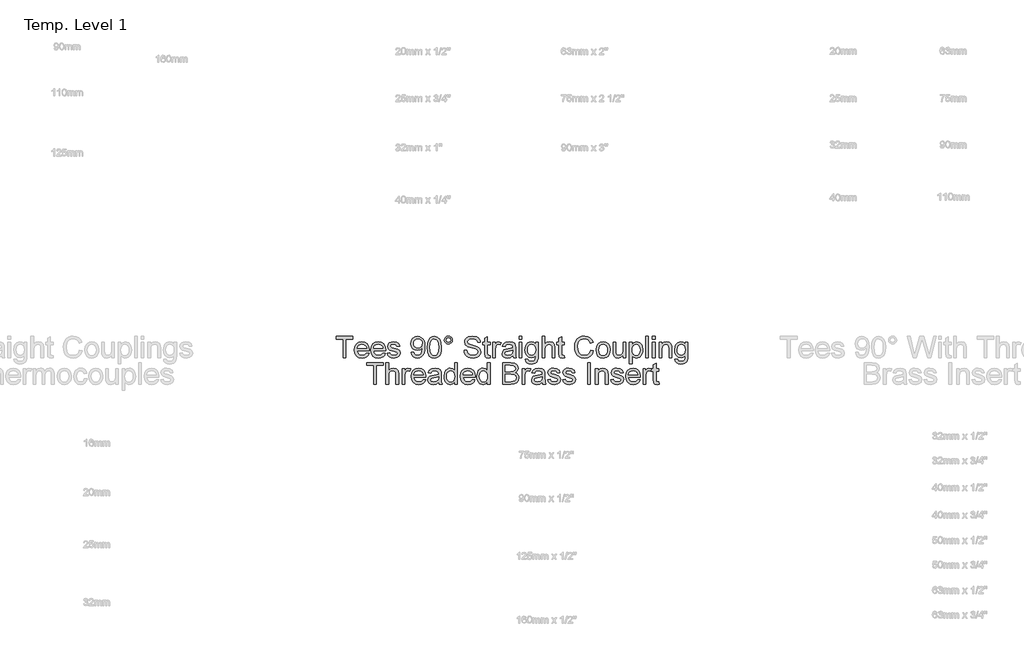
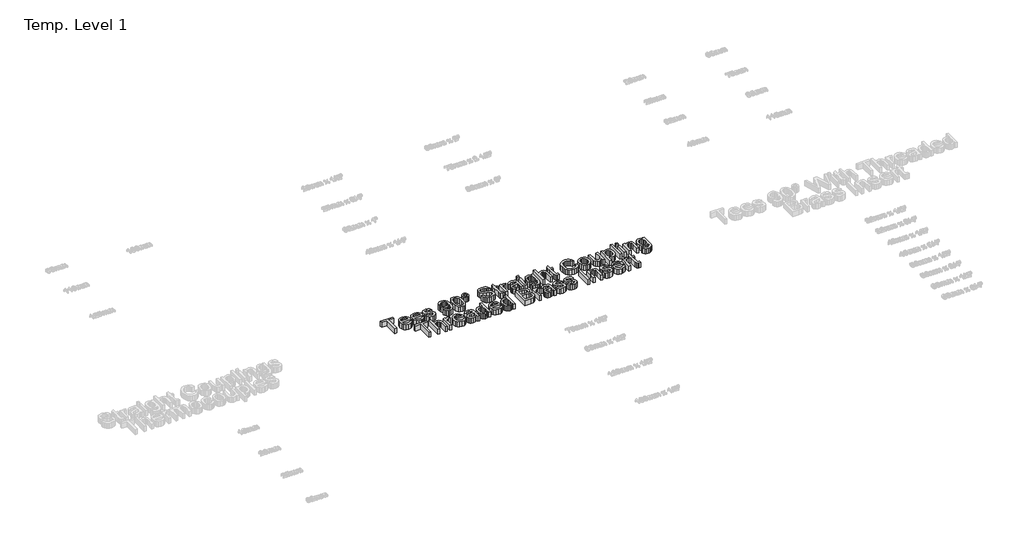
# One storey, part 5 of 62: 1 proxy.
"""IFC4 building model written with IfcOpenShell, lengths in millimetres."""

from ifc_helpers import new_model, si_unit, origin, origin_with_axes, place, context, project, spatial, polyline, outline, extrude, element, save

model = new_model("IFC4")

# Units and contexts
model_context = context("Model", 3, world=origin())
ifc_project = project(units=[si_unit("LENGTHUNIT", "METRE", prefix="MILLI")], contexts=[model_context])

# Site, building, storey
site = spatial("IfcSite", under=ifc_project)
building = spatial("IfcBuilding", under=site)
storey = spatial("IfcBuildingStorey", under=building, Name="Temp. Level 1", Elevation=0.0)

# Proxy
placement = place(None, origin())
element("IfcBuildingElementProxy", 1, Name="150mm Arial", ObjectType="150mm Arial", at=placement, inside=storey, context=model_context, shape_type="SweptSolid", body=[
    extrude(outline(polyline([(14288.0407135, -9979.0446709), (14288.0407135, -9849.8139016), (14239.579175, -9849.8139016), (14239.579175, -9831.3523632), (14354.9637904, -9831.3523632), (14354.9637904, -9849.8139016), (14306.5022519, -9849.8139016), (14306.5022519, -9979.0446709), (14288.0407135, -9979.0446709)])), origin_with_axes(), (0.0, 0.0, 1.0), 50.0),
    extrude(outline(polyline([(14449.3628288, -9946.7369786), (14467.4637904, -9949.0446709), (14460.9418553, -9962.683493), (14450.5347038, -9972.8788055), (14436.4767111, -9979.2339737), (14419.0022519, -9981.3523632), (14397.3405933, -9977.6970146), (14380.672925, -9966.7309689), (14370.0449202, -9949.1663656), (14366.5022519, -9925.7153439), (14370.0809779, -9901.4755603), (14380.8171558, -9883.3475555), (14397.2594635, -9872.0434689), (14417.9565788, -9868.2754401), (14438.009163, -9872.0344545), (14454.0323, -9883.3114978), (14464.5386101, -9901.4034449), (14468.0407135, -9925.6071709), (14467.9325404, -9930.5831324), (14384.9637904, -9930.5831324), (14388.1594034, -9944.402243), (14395.5827808, -9954.5614978), (14406.2964226, -9960.808493), (14419.3628288, -9962.8908247), (14437.4637904, -9959.0326516), (14449.3628288, -9946.7369786)]), holes=[polyline([(14384.9637904, -9912.1215939), (14449.579175, -9912.1215939), (14447.0821798, -9902.3679882), (14442.1873481, -9895.3908247), (14431.4241269, -9888.9004401), (14417.8844635, -9886.7369786), (14405.4400524, -9888.4632406), (14395.1500885, -9893.6420266), (14387.9971438, -9901.7144425), (14384.9637904, -9912.1215939)])]), origin_with_axes(), (0.0, 0.0, 1.0), 50.0),
    extrude(outline(polyline([(14562.4397519, -9946.7369786), (14580.5407135, -9949.0446709), (14574.0187784, -9962.683493), (14563.6116269, -9972.8788055), (14549.5536341, -9979.2339737), (14532.079175, -9981.3523632), (14510.4175163, -9977.6970146), (14493.7498481, -9966.7309689), (14483.1218433, -9949.1663656), (14479.579175, -9925.7153439), (14483.157901, -9901.4755603), (14493.8940788, -9883.3475555), (14510.3363865, -9872.0434689), (14531.0335019, -9868.2754401), (14551.0860861, -9872.0344545), (14567.1092231, -9883.3114978), (14577.6155332, -9901.4034449), (14581.1176365, -9925.6071709), (14581.0094635, -9930.5831324), (14498.0407135, -9930.5831324), (14501.2363264, -9944.402243), (14508.6597038, -9954.5614978), (14519.3733457, -9960.808493), (14532.4397519, -9962.8908247), (14550.5407135, -9959.0326516), (14562.4397519, -9946.7369786)]), holes=[polyline([(14498.0407135, -9912.1215939), (14562.6560981, -9912.1215939), (14560.1591029, -9902.3679882), (14555.2642712, -9895.3908247), (14544.50105, -9888.9004401), (14530.9613865, -9886.7369786), (14518.5169755, -9888.4632406), (14508.2270115, -9893.6420266), (14501.0740668, -9901.7144425), (14498.0407135, -9912.1215939)])]), origin_with_axes(), (0.0, 0.0, 1.0), 50.0),
    extrude(outline(polyline([(14592.6560981, -9946.7369786), (14611.1176365, -9944.4292862), (14614.0292952, -9952.3259209), (14619.6633096, -9958.1312093), (14639.2426365, -9962.8908247), (14658.0647519, -9958.5278439), (14664.1945596, -9948.2874593), (14658.0286942, -9939.9941901), (14639.0262904, -9934.729767), (14611.2258096, -9925.6973151), (14599.0923962, -9915.1504401), (14594.9637904, -9900.2586132), (14598.2810981, -9886.5026036), (14607.3315788, -9875.9917862), (14619.0683577, -9870.5290459), (14634.9517712, -9868.2754401), (14657.4157135, -9871.8992382), (14671.6945596, -9881.7069305), (14678.0407135, -9898.2754401), (14659.579175, -9900.5831324), (14652.6380692, -9890.3968343), (14636.3940788, -9886.7369786), (14618.7258096, -9890.2345747), (14613.4253288, -9898.3836132), (14615.6248481, -9903.7562093), (14622.5118673, -9907.8307286), (14638.4133096, -9911.761017), (14665.5106654, -9920.4509209), (14678.0948, -9930.2946709), (14682.6560981, -9946.3403439), (14677.3015308, -9964.0086132), (14661.8508096, -9976.8271228), (14638.9902327, -9981.3523632), (14620.375449, -9979.1708728), (14606.7907135, -9972.6264016), (14597.7222038, -9961.7910651), (14592.6560981, -9946.7369786)])), origin_with_axes(), (0.0, 0.0, 1.0), 50.0),
    extrude(outline(polyline([(14758.8099442, -9942.1215939), (14777.2714827, -9939.8139016), (14780.4265308, -9950.2931685), (14785.5647519, -9957.4280843), (14801.2859058, -9962.8908247), (14816.2318192, -9959.3751997), (14826.3640308, -9949.9821709), (14832.4036942, -9933.9364978), (14835.0719635, -9912.5182286), (14834.9637904, -9908.9124593), (14820.1981654, -9922.9028439), (14799.9517712, -9928.2754401), (14783.1173361, -9924.9941901), (14769.1044154, -9915.1504401), (14759.6527928, -9899.9431084), (14756.5022519, -9880.5711132), (14759.806038, -9860.5590939), (14769.7173962, -9844.8739978), (14784.6047159, -9834.7327718), (14802.8363865, -9831.3523632), (14816.6059178, -9833.2814497), (14829.1404731, -9839.0687093), (14839.6242471, -9848.4256805), (14847.2414346, -9861.0639016), (14851.8793553, -9878.5338536), (14853.4253288, -9902.386017), (14851.8838625, -9927.675981), (14847.2594635, -9947.2237574), (14839.5926966, -9961.9127598), (14828.9241269, -9972.6264016), (14815.7134899, -9979.1708728), (14800.4205212, -9981.3523632), (14784.6362663, -9978.7787454), (14772.0431173, -9971.057892), (14763.236026, -9958.6765819), (14758.8099442, -9942.1215939)]), holes=[polyline([(14834.9637904, -9880.1384209), (14832.9716029, -9867.6264016), (14826.9950404, -9857.9989978), (14817.719199, -9851.8601757), (14805.829175, -9849.8139016), (14793.4974442, -9852.0179281), (14783.6176365, -9858.6300074), (14777.1272519, -9868.7486973), (14774.9637904, -9881.4725555), (14777.0100644, -9892.8803079), (14783.1488865, -9901.9352959), (14792.7853048, -9907.8442502), (14805.3243673, -9909.8139016), (14817.1197399, -9907.8442502), (14826.6164346, -9901.9352959), (14832.8769514, -9892.5467742), (14834.9637904, -9880.1384209)])]), origin_with_axes(), (0.0, 0.0, 1.0), 50.0),
    extrude(outline(polyline([(14869.579175, -9906.3884209), (14870.9358457, -9882.7480963), (14875.0058577, -9863.8944305), (14881.7486462, -9849.5389617), (14891.1236462, -9839.3932286), (14903.1984659, -9833.3625795), (14918.0407135, -9831.3523632), (14939.6032135, -9836.1119786), (14954.4950404, -9849.8319305), (14963.1488865, -9871.682892), (14966.5022519, -9906.3884209), (14965.1591029, -9929.893529), (14961.1296558, -9948.7021228), (14954.4274322, -9963.0711132), (14945.0659538, -9973.2574112), (14932.9640909, -9979.3286252), (14918.0407135, -9981.3523632), (14898.8580212, -9977.8367382), (14884.2907135, -9967.2898632), (14873.2570596, -9942.3108968), (14869.579175, -9906.3884209)]), holes=[polyline([(14888.0407135, -9906.3523632), (14890.204175, -9935.3923271), (14896.6945596, -9952.1997189), (14906.3580212, -9960.2180483), (14918.0407135, -9962.8908247), (14929.7234058, -9960.2090338), (14939.3868673, -9952.1636612), (14945.8772519, -9935.347255), (14948.0407135, -9906.3523632), (14945.9493673, -9877.9659449), (14939.6753288, -9861.0278439), (14930.0298962, -9852.6173872), (14917.8243673, -9849.8139016), (14906.2678769, -9852.2838536), (14896.9830212, -9859.6937093), (14890.2762904, -9877.6864978), (14888.0407135, -9906.3523632)])]), origin_with_axes(), (0.0, 0.0, 1.0), 50.0),
    extrude(outline(polyline([(14987.2714827, -9856.7009209), (14989.3042351, -9846.0548872), (14995.4024923, -9837.1215939), (15004.3493072, -9831.0639016), (15014.9277327, -9829.0446709), (15025.6278529, -9831.0639016), (15034.579175, -9837.1215939), (15040.6368673, -9846.0548872), (15042.6560981, -9856.7009209), (15040.6233457, -9867.3334329), (15034.5250885, -9876.2982766), (15025.5602447, -9882.3965338), (15014.9277327, -9884.4292862), (15004.3493072, -9882.4100555), (14995.4024923, -9876.3523632), (14989.3042351, -9867.4010411), (14987.2714827, -9856.7009209)]), holes=[polyline([(14998.8099442, -9856.7369786), (15003.5515308, -9868.167267), (15014.9998481, -9872.8908247), (15026.37605, -9868.167267), (15031.1176365, -9856.7369786), (15026.37605, -9845.3066901), (15014.9998481, -9840.5831324), (15003.5515308, -9845.3066901), (14998.8099442, -9856.7369786)])]), origin_with_axes(), (0.0, 0.0, 1.0), 50.0),
    extrude(outline(polyline([(15123.4253288, -9928.2754401), (15141.8868673, -9928.2754401), (15147.8363865, -9946.7550074), (15162.3676365, -9958.4376997), (15184.5070596, -9962.8908247), (15203.797925, -9959.5194305), (15216.2558577, -9950.2526036), (15220.3484058, -9937.8667862), (15217.2835019, -9926.3463536), (15204.735425, -9917.9629401), (15177.8544154, -9910.9136612), (15148.9181173, -9901.8090939), (15133.2149923, -9888.0711132), (15128.0407135, -9869.7177478), (15129.6407736, -9858.9049473), (15134.4409538, -9848.8223151), (15142.3150524, -9840.276642), (15153.1368673, -9834.0747189), (15180.5046558, -9829.0446709), (15209.7113865, -9834.3090939), (15220.9073, -9840.808493), (15229.1825404, -9849.7778439), (15234.4199202, -9860.6582526), (15236.5022519, -9872.8908247), (15218.0407135, -9872.8908247), (15214.6512904, -9861.8751997), (15207.5839827, -9853.9244786), (15196.5413144, -9849.1107766), (15181.2258096, -9847.5062093), (15165.5497279, -9849.0927478), (15154.7955212, -9853.8523632), (15148.5755692, -9860.8565699), (15146.5022519, -9869.1768824), (15147.9716029, -9876.2712334), (15152.3796558, -9881.9773632), (15182.5238865, -9892.2898632), (15215.1921558, -9901.5566901), (15225.7164947, -9908.2544064), (15233.0587423, -9916.5206324), (15238.8099442, -9937.3980362), (15237.1557976, -9948.7787454), (15232.1933577, -9959.4833728), (15224.125449, -9968.6961132), (15213.1548962, -9975.6011612), (15185.2282135, -9981.3523632), (15167.1407736, -9979.8018824), (15152.2534538, -9975.1504401), (15140.3949803, -9967.3800074), (15131.3940788, -9956.4725555), (15125.6158337, -9943.1852959), (15123.4253288, -9928.2754401)])), origin_with_axes(), (0.0, 0.0, 1.0), 50.0),
    extrude(outline(polyline([(15303.4253288, -9963.6480362), (15305.7330212, -9979.5855362), (15291.922925, -9981.3523632), (15276.454175, -9978.2874593), (15268.7378288, -9970.2465939), (15266.5022519, -9949.2970747), (15266.5022519, -9889.0446709), (15252.6560981, -9889.0446709), (15252.6560981, -9870.5831324), (15266.5022519, -9870.5831324), (15266.5022519, -9844.2249593), (15284.9637904, -9833.3715939), (15284.9637904, -9870.5831324), (15303.4253288, -9870.5831324), (15303.4253288, -9889.0446709), (15284.9637904, -9889.0446709), (15284.9637904, -9948.7562093), (15285.9373481, -9958.2754401), (15289.0923962, -9961.6468343), (15295.3844635, -9962.8908247), (15303.4253288, -9963.6480362)])), origin_with_axes(), (0.0, 0.0, 1.0), 50.0),
    extrude(outline(polyline([(15321.8868673, -9979.0446709), (15321.8868673, -9870.5831324), (15338.0407135, -9870.5831324), (15338.0407135, -9886.6288055), (15349.5070596, -9871.8451516), (15361.0455212, -9868.2754401), (15379.579175, -9873.9725555), (15373.4133096, -9890.5230362), (15360.4325404, -9886.7369786), (15349.9938385, -9890.3788055), (15343.3411942, -9900.4749593), (15340.3484058, -9922.0374593), (15340.3484058, -9979.0446709), (15321.8868673, -9979.0446709)])), origin_with_axes(), (0.0, 0.0, 1.0), 50.0),
    extrude(outline(polyline([(15460.3484058, -9965.198517), (15442.4457615, -9977.7105362), (15422.6681173, -9981.3523632), (15407.2399322, -9979.1618584), (15395.8592231, -9972.5903439), (15388.8414947, -9962.6113776), (15386.5022519, -9950.198517), (15390.0359058, -9935.5951516), (15399.3207615, -9924.9941901), (15412.2474442, -9918.9364978), (15428.2210019, -9916.1600555), (15460.2402327, -9909.8139016), (15460.3484058, -9905.7033247), (15459.0773721, -9897.464142), (15455.2642712, -9892.073517), (15446.7366269, -9888.0711132), (15434.8556173, -9886.7369786), (15416.1777327, -9890.2886612), (15407.2714827, -9902.8908247), (15388.8099442, -9900.5831324), (15396.7967231, -9882.5542862), (15412.8784538, -9871.9893824), (15437.235425, -9868.2754401), (15459.6092231, -9871.5566901), (15472.2474442, -9879.7958728), (15477.9085019, -9892.3259209), (15478.8099442, -9908.479767), (15478.8099442, -9931.448517), (15479.7474442, -9963.5218343), (15483.4253288, -9979.0446709), (15464.9637904, -9979.0446709), (15460.3484058, -9965.198517)]), holes=[polyline([(15460.3484058, -9928.2754401), (15430.5647519, -9933.9364978), (15414.6813385, -9936.9292862), (15407.4878288, -9941.7970747), (15404.9637904, -9948.9004401), (15410.4625885, -9958.8884209), (15426.5984058, -9962.8908247), (15445.2762904, -9958.4737574), (15457.3195596, -9947.7826516), (15460.2402327, -9933.5038055), (15460.3484058, -9928.2754401)])]), origin_with_axes(), (0.0, 0.0, 1.0), 50.0),
    extrude(outline(polyline([(15504.1945596, -9849.8139016), (15504.1945596, -9831.3523632), (15522.6560981, -9831.3523632), (15522.6560981, -9849.8139016), (15504.1945596, -9849.8139016)])), origin_with_axes(), (0.0, 0.0, 1.0), 50.0),
    extrude(outline(polyline([(15504.1945596, -9979.0446709), (15504.1945596, -9870.5831324), (15522.6560981, -9870.5831324), (15522.6560981, -9979.0446709), (15504.1945596, -9979.0446709)])), origin_with_axes(), (0.0, 0.0, 1.0), 50.0),
    extrude(outline(polyline([(15545.7330212, -9988.2754401), (15564.1945596, -9990.5831324), (15570.1801365, -10000.3187093), (15588.1008096, -10004.4292862), (15606.9950404, -9999.7778439), (15616.0094635, -9986.7249593), (15617.2714827, -9965.198517), (15604.2726846, -9975.5831324), (15588.4253288, -9979.0446709), (15569.3913745, -9975.0152237), (15555.1981654, -9962.9268824), (15546.368538, -9945.2045266), (15543.4253288, -9924.2730362), (15548.7077808, -9895.6612574), (15555.1711221, -9884.0461733), (15563.9962423, -9875.4148632), (15574.8811582, -9870.0602959), (15587.5238865, -9868.2754401), (15603.9932375, -9872.3139016), (15617.2714827, -9884.4292862), (15617.2714827, -9870.5831324), (15635.7330212, -9870.5831324), (15635.7330212, -9964.2249593), (15634.4710019, -9985.8460531), (15630.6849442, -10000.0843343), (15624.1630091, -10009.5269425), (15614.6933577, -10016.761017), (15602.4833216, -10021.3583728), (15587.7402327, -10022.8908247), (15570.5632495, -10020.7318704), (15557.0371077, -10014.2550074), (15548.3607255, -10003.4422069), (15545.7330212, -9988.2754401)]), holes=[polyline([(15561.8868673, -9923.011017), (15563.8565188, -9939.9446108), (15569.7654731, -9951.5867382), (15578.649187, -9958.3340338), (15589.5431173, -9960.5831324), (15600.3559178, -9958.3475555), (15609.2847038, -9951.6408247), (15615.274788, -9940.1474353), (15617.2714827, -9923.5518824), (15615.2161942, -9907.5467742), (15609.0503288, -9896.0218343), (15599.9908337, -9889.0581925), (15589.2546558, -9886.7369786), (15578.712288, -9889.0221348), (15569.8736462, -9895.8776036), (15563.883562, -9907.2312694), (15561.8868673, -9923.011017)])]), origin_with_axes(), (0.0, 0.0, 1.0), 50.0),
    extrude(outline(polyline([(15663.4253288, -9979.0446709), (15663.4253288, -9831.3523632), (15681.8868673, -9831.3523632), (15681.8868673, -9885.6552478), (15696.282901, -9872.620392), (15714.0142712, -9868.2754401), (15734.7474442, -9873.0170266), (15747.3315788, -9886.1239978), (15751.1176365, -9910.3908247), (15751.1176365, -9979.0446709), (15732.6560981, -9979.0446709), (15732.6560981, -9912.3018824), (15731.1867471, -9900.745392), (15726.7786942, -9892.8307286), (15719.6753288, -9888.2604161), (15710.1200404, -9886.7369786), (15694.9938385, -9890.8475555), (15684.8976846, -9901.9893824), (15681.8868673, -9921.4244786), (15681.8868673, -9979.0446709), (15663.4253288, -9979.0446709)])), origin_with_axes(), (0.0, 0.0, 1.0), 50.0),
    extrude(outline(polyline([(15815.7330212, -9963.6480362), (15818.0407135, -9979.5855362), (15804.2306173, -9981.3523632), (15788.7618673, -9978.2874593), (15781.0455212, -9970.2465939), (15778.8099442, -9949.2970747), (15778.8099442, -9889.0446709), (15764.9637904, -9889.0446709), (15764.9637904, -9870.5831324), (15778.8099442, -9870.5831324), (15778.8099442, -9844.2249593), (15797.2714827, -9833.3715939), (15797.2714827, -9870.5831324), (15815.7330212, -9870.5831324), (15815.7330212, -9889.0446709), (15797.2714827, -9889.0446709), (15797.2714827, -9948.7562093), (15798.2450404, -9958.2754401), (15801.4000885, -9961.6468343), (15807.6921558, -9962.8908247), (15815.7330212, -9963.6480362)])), origin_with_axes(), (0.0, 0.0, 1.0), 50.0),
    extrude(outline(polyline([(15998.0407135, -9926.5446709), (16016.5022519, -9931.3042862), (16007.9836221, -9952.8172069), (15994.6152327, -9968.5338536), (15977.0551365, -9978.1477358), (15955.9613865, -9981.3523632), (15934.5476245, -9978.9274834), (15917.5419154, -9971.6528439), (15904.5070596, -9959.7808487), (15895.0058577, -9943.5639016), (15889.2050764, -9924.4983968), (15887.2714827, -9904.0807286), (15889.4574803, -9882.5452718), (15896.0154731, -9863.948517), (15906.602913, -9848.8809088), (15920.8772519, -9837.932892), (15937.8063385, -9831.2667262), (15956.3580212, -9829.0446709), (15976.5999082, -9831.9202718), (15993.3351846, -9840.5470747), (16006.0410139, -9854.3932286), (16014.1945596, -9872.9268824), (15995.7330212, -9877.3259209), (15989.3327808, -9863.86288), (15980.5887904, -9854.6276036), (15969.3928769, -9849.2865579), (15955.6368673, -9847.5062093), (15939.7804971, -9849.480368), (15926.7546558, -9855.4028439), (15916.8703409, -9864.651642), (15910.43855, -9876.604767), (15905.7330212, -9904.0446709), (15911.3039346, -9935.8475555), (15918.4253288, -9947.7240579), (15928.6476846, -9956.1660651), (15940.9027928, -9961.2096348), (15954.1224442, -9962.8908247), (15969.5326005, -9960.6011612), (15982.3736462, -9953.7321709), (15992.0686582, -9942.3559689), (15998.0407135, -9926.5446709)])), origin_with_axes(), (0.0, 0.0, 1.0), 50.0),
    extrude(outline(polyline([(16034.9637904, -9924.8139016), (16038.9571798, -9898.6630603), (16050.9373481, -9880.2826516), (16065.7390308, -9871.277243), (16083.4613865, -9868.2754401), (16102.8559178, -9871.9307887), (16118.3472038, -9882.8968343), (16128.5019514, -9900.3081925), (16131.8868673, -9923.2994786), (16130.3904731, -9941.9503199), (16125.9012904, -9956.1480362), (16118.5500284, -9966.7805483), (16108.4673962, -9974.7357766), (16096.4917351, -9979.6982165), (16083.4613865, -9981.3523632), (16063.8324803, -9977.7105362), (16048.3592231, -9966.7850555), (16038.3126486, -9949.0086132), (16034.9637904, -9924.8139016)]), holes=[polyline([(16053.4253288, -9924.7778439), (16055.5617471, -9941.4860771), (16061.9710019, -9953.3896228), (16071.6164346, -9960.5155242), (16083.4613865, -9962.8908247), (16095.2522519, -9960.5020026), (16104.8796558, -9953.3355362), (16111.2889106, -9941.2742382), (16113.4253288, -9924.2009209), (16111.2753889, -9907.9794665), (16104.8255692, -9896.2381805), (16095.1846438, -9889.112279), (16083.4613865, -9886.7369786), (16071.6164346, -9889.1032646), (16061.9710019, -9896.2021228), (16055.5617471, -9908.0786252), (16053.4253288, -9924.7778439)])]), origin_with_axes(), (0.0, 0.0, 1.0), 50.0),
    extrude(outline(polyline([(16221.8868673, -9979.0446709), (16221.8868673, -9960.4028439), (16207.4277327, -9976.1149834), (16188.5695596, -9981.3523632), (16171.2077808, -9977.6744786), (16159.2366269, -9968.4437093), (16153.7378288, -9954.8499593), (16152.6560981, -9937.6864978), (16152.6560981, -9870.5831324), (16171.1176365, -9870.5831324), (16171.1176365, -9928.9965939), (16172.235425, -9947.8187093), (16179.5371077, -9958.870392), (16193.2931173, -9962.8908247), (16208.7077808, -9958.7802478), (16218.8940788, -9947.5843343), (16221.8868673, -9927.0134209), (16221.8868673, -9870.5831324), (16240.3484058, -9870.5831324), (16240.3484058, -9979.0446709), (16221.8868673, -9979.0446709)])), origin_with_axes(), (0.0, 0.0, 1.0), 50.0),
    extrude(outline(polyline([(16265.7330212, -10020.5831324), (16265.7330212, -9870.5831324), (16284.1945596, -9870.5831324), (16284.1945596, -9888.6840939), (16296.9589827, -9873.3776036), (16314.1945596, -9868.2754401), (16326.6795356, -9870.0602959), (16337.5960019, -9875.4148632), (16346.4842231, -9884.0146228), (16352.8844635, -9895.5350555), (16358.0407135, -9923.9845747), (16356.5848841, -9939.7733367), (16352.2173962, -9953.8944305), (16345.0779731, -9965.6312093), (16335.3063385, -9974.2670266), (16323.9256293, -9979.581029), (16311.9589827, -9981.3523632), (16295.8952808, -9976.6107766), (16284.1945596, -9964.6215939), (16284.1945596, -10020.5831324), (16265.7330212, -10020.5831324)]), holes=[polyline([(16284.1945596, -9925.6792862), (16286.1912543, -9942.229767), (16292.1813385, -9953.8042862), (16301.0199803, -9960.6191901), (16311.5623481, -9962.8908247), (16322.2759899, -9960.5380603), (16331.3399923, -9953.479767), (16337.5193793, -9941.4815699), (16339.579175, -9924.3090939), (16337.5689587, -9907.8487574), (16331.5383096, -9896.1119786), (16322.7131894, -9889.0807286), (16312.3195596, -9886.7369786), (16301.8853649, -9889.2294665), (16292.7222038, -9896.7069305), (16286.3264707, -9908.9349954), (16284.1945596, -9925.6792862)])]), origin_with_axes(), (0.0, 0.0, 1.0), 50.0),
    extrude(outline(polyline([(16378.8099442, -9979.0446709), (16378.8099442, -9831.3523632), (16397.2714827, -9831.3523632), (16397.2714827, -9979.0446709), (16378.8099442, -9979.0446709)])), origin_with_axes(), (0.0, 0.0, 1.0), 50.0),
    extrude(outline(polyline([(16424.9637904, -9979.0446709), (16424.9637904, -9870.5831324), (16443.4253288, -9870.5831324), (16443.4253288, -9979.0446709), (16424.9637904, -9979.0446709)])), origin_with_axes(), (0.0, 0.0, 1.0), 50.0),
    extrude(outline(polyline([(16424.9637904, -9849.8139016), (16424.9637904, -9831.3523632), (16443.4253288, -9831.3523632), (16443.4253288, -9849.8139016), (16424.9637904, -9849.8139016)])), origin_with_axes(), (0.0, 0.0, 1.0), 50.0),
    extrude(outline(polyline([(16471.1176365, -9979.0446709), (16471.1176365, -9870.5831324), (16489.579175, -9870.5831324), (16489.579175, -9885.7273632), (16503.6957615, -9872.6384209), (16522.9685981, -9868.2754401), (16540.4024923, -9871.7910651), (16552.3015308, -9881.0218343), (16557.8363865, -9894.5975555), (16558.8099442, -9912.4461132), (16558.8099442, -9979.0446709), (16540.3484058, -9979.0446709), (16540.3484058, -9914.9340939), (16538.2210019, -9898.5999593), (16530.7029731, -9889.964142), (16518.0286942, -9886.7369786), (16507.2158938, -9888.5488776), (16497.9986462, -9893.9845747), (16491.6840428, -9904.4863776), (16489.579175, -9921.4965939), (16489.579175, -9979.0446709), (16471.1176365, -9979.0446709)])), origin_with_axes(), (0.0, 0.0, 1.0), 50.0),
    extrude(outline(polyline([(16579.579175, -9988.2754401), (16598.0407135, -9990.5831324), (16604.0262904, -10000.3187093), (16621.9469635, -10004.4292862), (16640.8411942, -9999.7778439), (16649.8556173, -9986.7249593), (16651.1176365, -9965.198517), (16638.1188385, -9975.5831324), (16622.2714827, -9979.0446709), (16603.2375284, -9975.0152237), (16589.0443192, -9962.9268824), (16580.2146918, -9945.2045266), (16577.2714827, -9924.2730362), (16582.5539346, -9895.6612574), (16589.017276, -9884.0461733), (16597.8423962, -9875.4148632), (16608.727312, -9870.0602959), (16621.3700404, -9868.2754401), (16637.8393913, -9872.3139016), (16651.1176365, -9884.4292862), (16651.1176365, -9870.5831324), (16669.579175, -9870.5831324), (16669.579175, -9964.2249593), (16668.3171558, -9985.8460531), (16664.5310981, -10000.0843343), (16658.009163, -10009.5269425), (16648.5395115, -10016.761017), (16636.3294755, -10021.3583728), (16621.5863865, -10022.8908247), (16604.4094034, -10020.7318704), (16590.8832615, -10014.2550074), (16582.2068793, -10003.4422069), (16579.579175, -9988.2754401)]), holes=[polyline([(16595.7330212, -9923.011017), (16597.7026726, -9939.9446108), (16603.6116269, -9951.5867382), (16612.4953409, -9958.3340338), (16623.3892712, -9960.5831324), (16634.2020716, -9958.3475555), (16643.1308577, -9951.6408247), (16649.1209418, -9940.1474353), (16651.1176365, -9923.5518824), (16649.0623481, -9907.5467742), (16642.8964827, -9896.0218343), (16633.8369875, -9889.0581925), (16623.1008096, -9886.7369786), (16612.5584418, -9889.0221348), (16603.7198, -9895.8776036), (16597.7297159, -9907.2312694), (16595.7330212, -9923.011017)])]), origin_with_axes(), (0.0, 0.0, 1.0), 50.0),
    extrude(outline(polyline([(14498.0407135, -10161.3523632), (14498.0407135, -10032.1215939), (14449.579175, -10032.1215939), (14449.579175, -10013.6600555), (14564.9637904, -10013.6600555), (14564.9637904, -10032.1215939), (14516.5022519, -10032.1215939), (14516.5022519, -10161.3523632), (14498.0407135, -10161.3523632)])), origin_with_axes(), (0.0, 0.0, 1.0), 50.0),
    extrude(outline(polyline([(14583.4253288, -10161.3523632), (14583.4253288, -10013.6600555), (14601.8868673, -10013.6600555), (14601.8868673, -10067.9629401), (14616.282901, -10054.9280843), (14634.0142712, -10050.5831324), (14654.7474442, -10055.3247189), (14667.3315788, -10068.4316901), (14671.1176365, -10092.698517), (14671.1176365, -10161.3523632), (14652.6560981, -10161.3523632), (14652.6560981, -10094.6095747), (14651.1867471, -10083.0530843), (14646.7786942, -10075.1384209), (14639.6753288, -10070.5681084), (14630.1200404, -10069.0446709), (14614.9938385, -10073.1552478), (14604.8976846, -10084.2970747), (14601.8868673, -10103.7321709), (14601.8868673, -10161.3523632), (14583.4253288, -10161.3523632)])), origin_with_axes(), (0.0, 0.0, 1.0), 50.0),
    extrude(outline(polyline([(14696.5022519, -10161.3523632), (14696.5022519, -10052.8908247), (14712.6560981, -10052.8908247), (14712.6560981, -10068.9364978), (14724.1224442, -10054.1528439), (14735.6609058, -10050.5831324), (14754.1945596, -10056.2802478), (14748.0286942, -10072.8307286), (14735.047925, -10069.0446709), (14724.6092231, -10072.6864978), (14717.9565788, -10082.7826516), (14714.9637904, -10104.3451516), (14714.9637904, -10161.3523632), (14696.5022519, -10161.3523632)])), origin_with_axes(), (0.0, 0.0, 1.0), 50.0),
    extrude(outline(polyline([(14841.6705212, -10129.0446709), (14859.7714827, -10131.3523632), (14853.2495476, -10144.9911853), (14842.8423962, -10155.1864978), (14828.7844034, -10161.5416661), (14811.3099442, -10163.6600555), (14789.6482856, -10160.0047069), (14772.9806173, -10149.0386612), (14762.3526125, -10131.4740579), (14758.8099442, -10108.0230362), (14762.3886702, -10083.7832526), (14773.1248481, -10065.6552478), (14789.5671558, -10054.3511612), (14810.2642712, -10050.5831324), (14830.3168553, -10054.3421468), (14846.3399923, -10065.6191901), (14856.8463024, -10083.7111372), (14860.3484058, -10107.9148632), (14860.2402327, -10112.8908247), (14777.2714827, -10112.8908247), (14780.4670957, -10126.7099353), (14787.8904731, -10136.8691901), (14798.6041149, -10143.1161853), (14811.6705212, -10145.198517), (14829.7714827, -10141.3403439), (14841.6705212, -10129.0446709)]), holes=[polyline([(14777.2714827, -10094.4292862), (14841.8868673, -10094.4292862), (14839.3898721, -10084.6756805), (14834.4950404, -10077.698517), (14823.7318192, -10071.2081324), (14810.1921558, -10069.0446709), (14797.7477447, -10070.7709329), (14787.4577808, -10075.9497189), (14780.3048361, -10084.0221348), (14777.2714827, -10094.4292862)])]), origin_with_axes(), (0.0, 0.0, 1.0), 50.0),
    extrude(outline(polyline([(14948.0407135, -10147.5062093), (14930.1380692, -10160.0182286), (14910.360425, -10163.6600555), (14894.9322399, -10161.4695507), (14883.5515308, -10154.8980362), (14876.5338024, -10144.9190699), (14874.1945596, -10132.5062093), (14877.7282135, -10117.9028439), (14887.0130692, -10107.3018824), (14899.9397519, -10101.2441901), (14915.9133096, -10098.4677478), (14947.9325404, -10092.1215939), (14948.0407135, -10088.011017), (14946.7696798, -10079.7718343), (14942.9565788, -10074.3812093), (14934.4289346, -10070.3788055), (14922.547925, -10069.0446709), (14903.8700404, -10072.5963536), (14894.9637904, -10085.198517), (14876.5022519, -10082.8908247), (14884.4890308, -10064.8619786), (14900.5707615, -10054.2970747), (14924.9277327, -10050.5831324), (14947.3015308, -10053.8643824), (14959.9397519, -10062.1035651), (14965.6008096, -10074.6336132), (14966.5022519, -10090.7874593), (14966.5022519, -10113.7562093), (14967.4397519, -10145.8295266), (14971.1176365, -10161.3523632), (14952.6560981, -10161.3523632), (14948.0407135, -10147.5062093)]), holes=[polyline([(14948.0407135, -10110.5831324), (14918.2570596, -10116.2441901), (14902.3736462, -10119.2369786), (14895.1801365, -10124.104767), (14892.6560981, -10131.2081324), (14898.1548962, -10141.1961132), (14914.2907135, -10145.198517), (14932.9685981, -10140.7814497), (14945.0118673, -10130.0903439), (14947.9325404, -10115.8114978), (14948.0407135, -10110.5831324)])]), origin_with_axes(), (0.0, 0.0, 1.0), 50.0),
    extrude(outline(polyline([(15058.8099442, -10161.3523632), (15058.8099442, -10143.9364978), (15046.595401, -10158.7291661), (15029.7113865, -10163.6600555), (15017.7762904, -10161.8751997), (15006.8508096, -10156.5206324), (14997.6020115, -10147.9704521), (14990.6969635, -10136.5987574), (14986.3970837, -10122.8652838), (14984.9637904, -10107.229767), (14990.2462423, -10077.8427478), (14996.8448, -10066.1870987), (15006.0755692, -10057.6143824), (15017.2399322, -10052.3409449), (15029.6392712, -10050.5831324), (15046.6585019, -10055.6131805), (15058.8099442, -10068.6840939), (15058.8099442, -10013.6600555), (15077.2714827, -10013.6600555), (15077.2714827, -10161.3523632), (15058.8099442, -10161.3523632)]), holes=[polyline([(15003.4253288, -10107.1576516), (15005.5076606, -10123.8568704), (15011.7546558, -10135.7333728), (15020.8321798, -10142.832231), (15031.4060981, -10145.198517), (15041.9755091, -10142.940404), (15050.8231654, -10136.1660651), (15056.8132495, -10124.7492983), (15058.8099442, -10108.5639016), (15056.7771918, -10090.8685891), (15050.6789346, -10078.5999593), (15041.6059178, -10071.433493), (15030.6488865, -10069.0446709), (15019.9667952, -10071.3388415), (15011.2137904, -10078.2213536), (15005.3724442, -10090.0437694), (15003.4253288, -10107.1576516)])]), origin_with_axes(), (0.0, 0.0, 1.0), 50.0),
    extrude(outline(polyline([(15180.9012904, -10129.0446709), (15199.0022519, -10131.3523632), (15192.4803168, -10144.9911853), (15182.0731654, -10155.1864978), (15168.0151726, -10161.5416661), (15150.5407135, -10163.6600555), (15128.8790548, -10160.0047069), (15112.2113865, -10149.0386612), (15101.5833817, -10131.4740579), (15098.0407135, -10108.0230362), (15101.6194394, -10083.7832526), (15112.3556173, -10065.6552478), (15128.797925, -10054.3511612), (15149.4950404, -10050.5831324), (15169.5476245, -10054.3421468), (15185.5707615, -10065.6191901), (15196.0770716, -10083.7111372), (15199.579175, -10107.9148632), (15199.4710019, -10112.8908247), (15116.5022519, -10112.8908247), (15119.6978649, -10126.7099353), (15127.1212423, -10136.8691901), (15137.8348841, -10143.1161853), (15150.9012904, -10145.198517), (15169.0022519, -10141.3403439), (15180.9012904, -10129.0446709)]), holes=[polyline([(15116.5022519, -10094.4292862), (15181.1176365, -10094.4292862), (15178.6206413, -10084.6756805), (15173.7258096, -10077.698517), (15162.9625885, -10071.2081324), (15149.422925, -10069.0446709), (15136.9785139, -10070.7709329), (15126.68855, -10075.9497189), (15119.5356053, -10084.0221348), (15116.5022519, -10094.4292862)])]), origin_with_axes(), (0.0, 0.0, 1.0), 50.0),
    extrude(outline(polyline([(15284.9637904, -10161.3523632), (15284.9637904, -10143.9364978), (15272.7492471, -10158.7291661), (15255.8652327, -10163.6600555), (15243.9301365, -10161.8751997), (15233.0046558, -10156.5206324), (15223.7558577, -10147.9704521), (15216.8508096, -10136.5987574), (15212.5509298, -10122.8652838), (15211.1176365, -10107.229767), (15216.4000885, -10077.8427478), (15222.9986462, -10066.1870987), (15232.2294154, -10057.6143824), (15243.3937784, -10052.3409449), (15255.7931173, -10050.5831324), (15272.8123481, -10055.6131805), (15284.9637904, -10068.6840939), (15284.9637904, -10013.6600555), (15303.4253288, -10013.6600555), (15303.4253288, -10161.3523632), (15284.9637904, -10161.3523632)]), holes=[polyline([(15229.579175, -10107.1576516), (15231.6615067, -10123.8568704), (15237.9085019, -10135.7333728), (15246.986026, -10142.832231), (15257.5599442, -10145.198517), (15268.1293553, -10142.940404), (15276.9770115, -10136.1660651), (15282.9670957, -10124.7492983), (15284.9637904, -10108.5639016), (15282.931038, -10090.8685891), (15276.8327808, -10078.5999593), (15267.7597639, -10071.433493), (15256.8027327, -10069.0446709), (15246.1206413, -10071.3388415), (15237.3676365, -10078.2213536), (15231.5262904, -10090.0437694), (15229.579175, -10107.1576516)])]), origin_with_axes(), (0.0, 0.0, 1.0), 50.0),
    extrude(outline(polyline([(15391.1176365, -10161.3523632), (15391.1176365, -10013.6600555), (15447.4758096, -10013.6600555), (15475.0779731, -10018.0050074), (15484.3538144, -10023.5173271), (15491.37605, -10031.3643824), (15497.2714827, -10050.2586132), (15492.31355, -10067.5122189), (15477.3315788, -10080.5831324), (15487.7928168, -10086.0458728), (15495.5226846, -10094.3571709), (15500.2958216, -10104.9671468), (15501.8868673, -10117.3259209), (15497.5419154, -10137.1756805), (15486.7786942, -10151.3102959), (15470.7149923, -10158.8102959), (15447.0431173, -10161.3523632), (15391.1176365, -10161.3523632)]), holes=[polyline([(15409.579175, -10073.6600555), (15443.2931173, -10073.6600555), (15462.9806173, -10072.073517), (15474.8255692, -10065.2405843), (15478.8099442, -10053.2153439), (15475.0960019, -10041.1720747), (15464.4589827, -10034.0506805), (15440.7330212, -10032.1215939), (15409.579175, -10032.1215939), (15409.579175, -10073.6600555)]), polyline([(15409.579175, -10142.8908247), (15447.4397519, -10142.8908247), (15461.141675, -10142.1696709), (15472.7342231, -10138.1492382), (15480.4145115, -10129.9461132), (15483.4253288, -10117.5062093), (15479.891675, -10103.1552478), (15468.4433577, -10094.5915459), (15445.6368673, -10092.1215939), (15409.579175, -10092.1215939), (15409.579175, -10142.8908247)])]), origin_with_axes(), (0.0, 0.0, 1.0), 50.0),
    extrude(outline(polyline([(15524.9637904, -10161.3523632), (15524.9637904, -10052.8908247), (15541.1176365, -10052.8908247), (15541.1176365, -10068.9364978), (15552.5839827, -10054.1528439), (15564.1224442, -10050.5831324), (15582.6560981, -10056.2802478), (15576.4902327, -10072.8307286), (15563.5094635, -10069.0446709), (15553.0707615, -10072.6864978), (15546.4181173, -10082.7826516), (15543.4253288, -10104.3451516), (15543.4253288, -10161.3523632), (15524.9637904, -10161.3523632)])), origin_with_axes(), (0.0, 0.0, 1.0), 50.0),
    extrude(outline(polyline([(15663.4253288, -10147.5062093), (15645.5226846, -10160.0182286), (15625.7450404, -10163.6600555), (15610.3168553, -10161.4695507), (15598.9361462, -10154.8980362), (15591.9184178, -10144.9190699), (15589.579175, -10132.5062093), (15593.1128288, -10117.9028439), (15602.3976846, -10107.3018824), (15615.3243673, -10101.2441901), (15631.297925, -10098.4677478), (15663.3171558, -10092.1215939), (15663.4253288, -10088.011017), (15662.1542952, -10079.7718343), (15658.3411942, -10074.3812093), (15649.81355, -10070.3788055), (15637.9325404, -10069.0446709), (15619.2546558, -10072.5963536), (15610.3484058, -10085.198517), (15591.8868673, -10082.8908247), (15599.8736462, -10064.8619786), (15615.9553769, -10054.2970747), (15640.3123481, -10050.5831324), (15662.6861462, -10053.8643824), (15675.3243673, -10062.1035651), (15680.985425, -10074.6336132), (15681.8868673, -10090.7874593), (15681.8868673, -10113.7562093), (15682.8243673, -10145.8295266), (15686.5022519, -10161.3523632), (15668.0407135, -10161.3523632), (15663.4253288, -10147.5062093)]), holes=[polyline([(15663.4253288, -10110.5831324), (15633.641675, -10116.2441901), (15617.7582615, -10119.2369786), (15610.5647519, -10124.104767), (15608.0407135, -10131.2081324), (15613.5395115, -10141.1961132), (15629.6753288, -10145.198517), (15648.3532135, -10140.7814497), (15660.3964827, -10130.0903439), (15663.3171558, -10115.8114978), (15663.4253288, -10110.5831324)])]), origin_with_axes(), (0.0, 0.0, 1.0), 50.0),
    extrude(outline(polyline([(15700.3484058, -10129.0446709), (15718.8099442, -10126.7369786), (15721.7216029, -10134.6336132), (15727.3556173, -10140.4389016), (15746.9349442, -10145.198517), (15765.7570596, -10140.8355362), (15771.8868673, -10130.5951516), (15765.7210019, -10122.3018824), (15746.7185981, -10117.0374593), (15718.9181173, -10108.0050074), (15706.7847038, -10097.4581324), (15702.6560981, -10082.5663055), (15705.9734058, -10068.8102959), (15715.0238865, -10058.2994786), (15726.7606654, -10052.8367382), (15742.6440788, -10050.5831324), (15765.1080212, -10054.2069305), (15779.3868673, -10064.0146228), (15785.7330212, -10080.5831324), (15767.2714827, -10082.8908247), (15760.3303769, -10072.7045266), (15744.0863865, -10069.0446709), (15726.4181173, -10072.542267), (15721.1176365, -10080.6913055), (15723.3171558, -10086.0639016), (15730.204175, -10090.1384209), (15746.1056173, -10094.0687093), (15773.2029731, -10102.7586132), (15785.7871077, -10112.6023632), (15790.3484058, -10128.6480362), (15784.9938385, -10146.3163055), (15769.5431173, -10159.1348151), (15746.6825404, -10163.6600555), (15728.0677567, -10161.4785651), (15714.4830212, -10154.9340939), (15705.4145115, -10144.0987574), (15700.3484058, -10129.0446709)])), origin_with_axes(), (0.0, 0.0, 1.0), 50.0),
    extrude(outline(polyline([(15804.1945596, -10129.0446709), (15822.6560981, -10126.7369786), (15825.5677567, -10134.6336132), (15831.2017712, -10140.4389016), (15850.7810981, -10145.198517), (15869.6032135, -10140.8355362), (15875.7330212, -10130.5951516), (15869.5671558, -10122.3018824), (15850.5647519, -10117.0374593), (15822.7642712, -10108.0050074), (15810.6308577, -10097.4581324), (15806.5022519, -10082.5663055), (15809.8195596, -10068.8102959), (15818.8700404, -10058.2994786), (15830.6068192, -10052.8367382), (15846.4902327, -10050.5831324), (15868.954175, -10054.2069305), (15883.2330212, -10064.0146228), (15889.579175, -10080.5831324), (15871.1176365, -10082.8908247), (15864.1765308, -10072.7045266), (15847.9325404, -10069.0446709), (15830.2642712, -10072.542267), (15824.9637904, -10080.6913055), (15827.1633096, -10086.0639016), (15834.0503288, -10090.1384209), (15849.9517712, -10094.0687093), (15877.0491269, -10102.7586132), (15889.6332615, -10112.6023632), (15894.1945596, -10128.6480362), (15888.8399923, -10146.3163055), (15873.3892712, -10159.1348151), (15850.5286942, -10163.6600555), (15831.9139106, -10161.4785651), (15818.329175, -10154.9340939), (15809.2606654, -10144.0987574), (15804.1945596, -10129.0446709)])), origin_with_axes(), (0.0, 0.0, 1.0), 50.0),
    extrude(outline(polyline([(15977.2714827, -10161.3523632), (15977.2714827, -10013.6600555), (15995.7330212, -10013.6600555), (15995.7330212, -10161.3523632), (15977.2714827, -10161.3523632)])), origin_with_axes(), (0.0, 0.0, 1.0), 50.0),
    extrude(outline(polyline([(16030.3484058, -10161.3523632), (16030.3484058, -10052.8908247), (16048.8099442, -10052.8908247), (16048.8099442, -10068.0350555), (16062.9265308, -10054.9461132), (16082.1993673, -10050.5831324), (16099.6332615, -10054.0987574), (16111.5323, -10063.3295266), (16117.0671558, -10076.9052478), (16118.0407135, -10094.7538055), (16118.0407135, -10161.3523632), (16099.579175, -10161.3523632), (16099.579175, -10097.2417862), (16097.4517712, -10080.9076516), (16089.9337423, -10072.2718343), (16077.2594635, -10069.0446709), (16066.446663, -10070.8565699), (16057.2294154, -10076.292267), (16050.914812, -10086.7940699), (16048.8099442, -10103.8042862), (16048.8099442, -10161.3523632), (16030.3484058, -10161.3523632)])), origin_with_axes(), (0.0, 0.0, 1.0), 50.0),
    extrude(outline(polyline([(16136.5022519, -10129.0446709), (16154.9637904, -10126.7369786), (16157.875449, -10134.6336132), (16163.5094635, -10140.4389016), (16183.0887904, -10145.198517), (16201.9109058, -10140.8355362), (16208.0407135, -10130.5951516), (16201.8748481, -10122.3018824), (16182.8724442, -10117.0374593), (16155.0719635, -10108.0050074), (16142.93855, -10097.4581324), (16138.8099442, -10082.5663055), (16142.1272519, -10068.8102959), (16151.1777327, -10058.2994786), (16162.9145115, -10052.8367382), (16178.797925, -10050.5831324), (16201.2618673, -10054.2069305), (16215.5407135, -10064.0146228), (16221.8868673, -10080.5831324), (16203.4253288, -10082.8908247), (16196.4842231, -10072.7045266), (16180.2402327, -10069.0446709), (16162.5719635, -10072.542267), (16157.2714827, -10080.6913055), (16159.4710019, -10086.0639016), (16166.3580212, -10090.1384209), (16182.2594635, -10094.0687093), (16209.3568192, -10102.7586132), (16221.9409538, -10112.6023632), (16226.5022519, -10128.6480362), (16221.1476846, -10146.3163055), (16205.6969635, -10159.1348151), (16182.8363865, -10163.6600555), (16164.2216029, -10161.4785651), (16150.6368673, -10154.9340939), (16141.5683577, -10144.0987574), (16136.5022519, -10129.0446709)])), origin_with_axes(), (0.0, 0.0, 1.0), 50.0),
    extrude(outline(polyline([(16323.2089827, -10129.0446709), (16341.3099442, -10131.3523632), (16334.7880091, -10144.9911853), (16324.3808577, -10155.1864978), (16310.3228649, -10161.5416661), (16292.8484058, -10163.6600555), (16271.1867471, -10160.0047069), (16254.5190788, -10149.0386612), (16243.891074, -10131.4740579), (16240.3484058, -10108.0230362), (16243.9271317, -10083.7832526), (16254.6633096, -10065.6552478), (16271.1056173, -10054.3511612), (16291.8027327, -10050.5831324), (16311.8553168, -10054.3421468), (16327.8784538, -10065.6191901), (16338.3847639, -10083.7111372), (16341.8868673, -10107.9148632), (16341.7786942, -10112.8908247), (16258.8099442, -10112.8908247), (16262.0055572, -10126.7099353), (16269.4289346, -10136.8691901), (16280.1425764, -10143.1161853), (16293.2089827, -10145.198517), (16311.3099442, -10141.3403439), (16323.2089827, -10129.0446709)]), holes=[polyline([(16258.8099442, -10094.4292862), (16323.4253288, -10094.4292862), (16320.9283337, -10084.6756805), (16316.0335019, -10077.698517), (16305.2702808, -10071.2081324), (16291.7306173, -10069.0446709), (16279.2862063, -10070.7709329), (16268.9962423, -10075.9497189), (16261.8432976, -10084.0221348), (16258.8099442, -10094.4292862)])]), origin_with_axes(), (0.0, 0.0, 1.0), 50.0),
    extrude(outline(polyline([(16360.3484058, -10161.3523632), (16360.3484058, -10052.8908247), (16376.5022519, -10052.8908247), (16376.5022519, -10068.9364978), (16387.9685981, -10054.1528439), (16399.5070596, -10050.5831324), (16418.0407135, -10056.2802478), (16411.8748481, -10072.8307286), (16398.8940788, -10069.0446709), (16388.4553769, -10072.6864978), (16381.8027327, -10082.7826516), (16378.8099442, -10104.3451516), (16378.8099442, -10161.3523632), (16360.3484058, -10161.3523632)])), origin_with_axes(), (0.0, 0.0, 1.0), 50.0),
    extrude(outline(polyline([(16468.8099442, -10145.9557286), (16471.1176365, -10161.8932286), (16457.3075404, -10163.6600555), (16441.8387904, -10160.5951516), (16434.1224442, -10152.5542862), (16431.8868673, -10131.604767), (16431.8868673, -10071.3523632), (16418.0407135, -10071.3523632), (16418.0407135, -10052.8908247), (16431.8868673, -10052.8908247), (16431.8868673, -10026.5326516), (16450.3484058, -10015.6792862), (16450.3484058, -10052.8908247), (16468.8099442, -10052.8908247), (16468.8099442, -10071.3523632), (16450.3484058, -10071.3523632), (16450.3484058, -10131.0639016), (16451.3219635, -10140.5831324), (16454.4770115, -10143.9545266), (16460.7690788, -10145.198517), (16468.8099442, -10145.9557286)])), origin_with_axes(), (0.0, 0.0, 1.0), 50.0),
])

save(model, "model.ifc")
